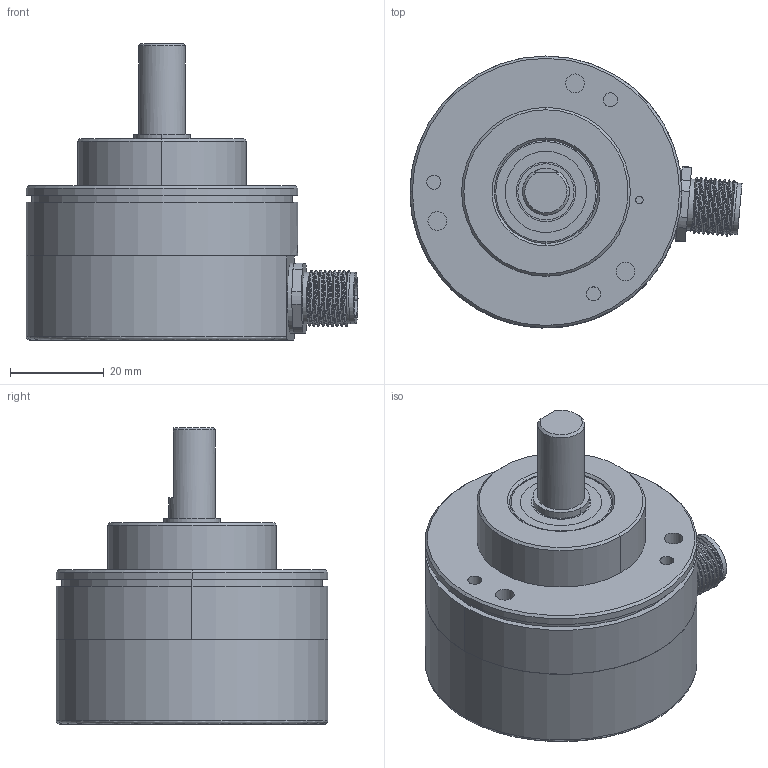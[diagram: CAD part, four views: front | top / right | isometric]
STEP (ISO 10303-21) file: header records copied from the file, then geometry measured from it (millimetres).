
FILE_DESCRIPTION(/* description */ (''),/* implementation_level */ '2;1');
FILE_NAME(/* name */ '编码器 IP68-BRT58-10mm轴.stp',/* time_stamp */ '2024-04-22T19:08:30+08:00',/* author */ (''),/* organization */ (''),/* preprocessor_version */ 'ST-DEVELOPER v16.7',/* originating_system */ 'SIEMENS PLM Software NX 12.0',/* authorisation */ '');
FILE_SCHEMA (('AP203_CONFIGURATION_CONTROLLED_3D_DESIGN_OF_MECHANICAL_PARTS_AND_ASSEMBLIES_MIM_LF { 1 0 10303 403 2 1 2}'));
Length unit declared in the file: millimetre
Products named in the file (1): Li Y5970CF99cbeh
Bounding box: 70.82 x 58 x 63.3 mm (x, y, z)
Volume: 57774.4 mm3; surface area: 33193 mm2
Topology: 10 solids, 10 shells, 295 faces, 833 edges, 525 vertices
Faces by surface type: cylinder 135, plane 75, torus 45, sphere 29, cone 7, bspline 4
Full cylindrical faces by diameter (mm): 1 x5, 3 x3, 4 x3, 8.3 x1, 10 x1, 11 x11, 12 x2, 12.667 x1, 15 x1, 17.333 x1
Entity records: 22912 total; most frequent: CARTESIAN_POINT 15755, DIRECTION 1462, ORIENTED_EDGE 1436, EDGE_CURVE 718, AXIS2_PLACEMENT_3D 657, VERTEX_POINT 492, EDGE_LOOP 380, CIRCLE 374
